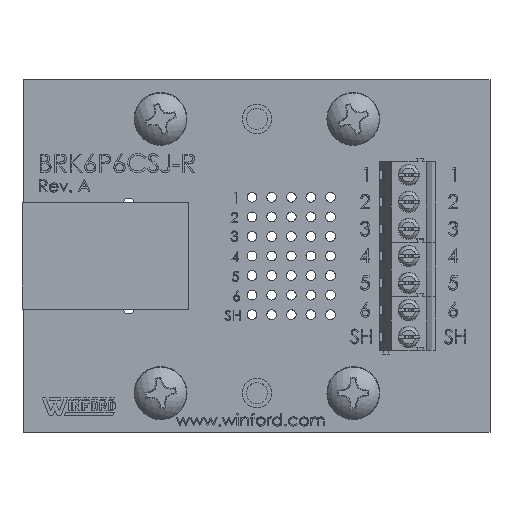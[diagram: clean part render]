
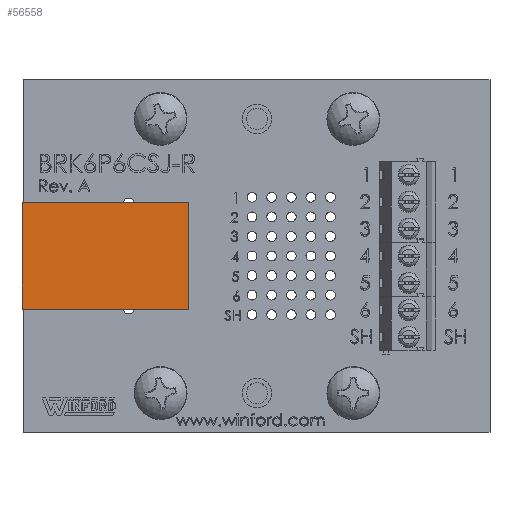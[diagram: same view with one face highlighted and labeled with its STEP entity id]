
A CAD part, top view. The second image highlights one B-rep face of the part: STEP entity #56558.
In plain terms, the highlighted planar face has unit normal (0, 0, 1) as drawn and (0, 1, 0) by its records, which use the part's own axes.
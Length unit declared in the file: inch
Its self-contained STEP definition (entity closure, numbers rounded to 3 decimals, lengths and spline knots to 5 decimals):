
#639 = ORIENTED_EDGE ( 'NONE', *, *, #26587, .F. ) ;
#3421 = EDGE_CURVE ( 'NONE', #58530, #19157, #47082, .T. ) ;
#9306 = LINE ( 'NONE', #61627, #24495 ) ;
#10428 = CARTESIAN_POINT ( 'NONE',  ( 0., 0., -0.85 ) ) ;
#12206 = CARTESIAN_POINT ( 'NONE',  ( -0.545, 0., 0. ) ) ;
#13695 = EDGE_CURVE ( 'NONE', #58530, #46038, #64465, .T. ) ;
#19157 = VERTEX_POINT ( 'NONE', #27150 ) ;
#20648 = LINE ( 'NONE', #12206, #72980 ) ;
#21445 = ORIENTED_EDGE ( 'NONE', *, *, #13695, .F. ) ;
#23346 = DIRECTION ( 'NONE',  ( 1., 0., 0. ) ) ;
#24495 = VECTOR ( 'NONE', #89620, 39.37008 ) ;
#26587 = EDGE_CURVE ( 'NONE', #46038, #49086, #9306, .T. ) ;
#27150 = CARTESIAN_POINT ( 'NONE',  ( -0.545, 0., 0. ) ) ;
#27429 = CARTESIAN_POINT ( 'NONE',  ( -0.545, 0., -0.85 ) ) ;
#33545 = CARTESIAN_POINT ( 'NONE',  ( -0.545, 0., -0.85 ) ) ;
#34182 = FACE_OUTER_BOUND ( 'NONE', #49706, .T. ) ;
#43266 = CARTESIAN_POINT ( 'NONE',  ( -0.545, 0., -0.85 ) ) ;
#46038 = VERTEX_POINT ( 'NONE', #10428 ) ;
#46301 = DIRECTION ( 'NONE',  ( 0., 0., 1. ) ) ;
#47082 = LINE ( 'NONE', #27429, #63540 ) ;
#48150 = AXIS2_PLACEMENT_3D ( 'NONE', #33545, #88130, #46301 ) ;
#49086 = VERTEX_POINT ( 'NONE', #85998 ) ;
#49706 = EDGE_LOOP ( 'NONE', ( #639, #21445, #79434, #70059 ) ) ;
#56558 = ADVANCED_FACE ( 'NONE', ( #34182 ), #75360, .T. ) ;
#57865 = CARTESIAN_POINT ( 'NONE',  ( -0.545, 0., -0.85 ) ) ;
#58530 = VERTEX_POINT ( 'NONE', #43266 ) ;
#61627 = CARTESIAN_POINT ( 'NONE',  ( 0., 0., -0.85 ) ) ;
#63540 = VECTOR ( 'NONE', #64820, 39.37008 ) ;
#64465 = LINE ( 'NONE', #57865, #73189 ) ;
#64820 = DIRECTION ( 'NONE',  ( 0., 0., 1. ) ) ;
#67932 = DIRECTION ( 'NONE',  ( 1., 0., 0. ) ) ;
#70059 = ORIENTED_EDGE ( 'NONE', *, *, #81422, .T. ) ;
#72980 = VECTOR ( 'NONE', #67932, 39.37008 ) ;
#73189 = VECTOR ( 'NONE', #23346, 39.37008 ) ;
#75360 = PLANE ( 'NONE',  #48150 ) ;
#79434 = ORIENTED_EDGE ( 'NONE', *, *, #3421, .T. ) ;
#81422 = EDGE_CURVE ( 'NONE', #19157, #49086, #20648, .T. ) ;
#85998 = CARTESIAN_POINT ( 'NONE',  ( 0., 0., 0. ) ) ;
#88130 = DIRECTION ( 'NONE',  ( 0., 1., 0. ) ) ;
#89620 = DIRECTION ( 'NONE',  ( 0., 0., 1. ) ) ;
